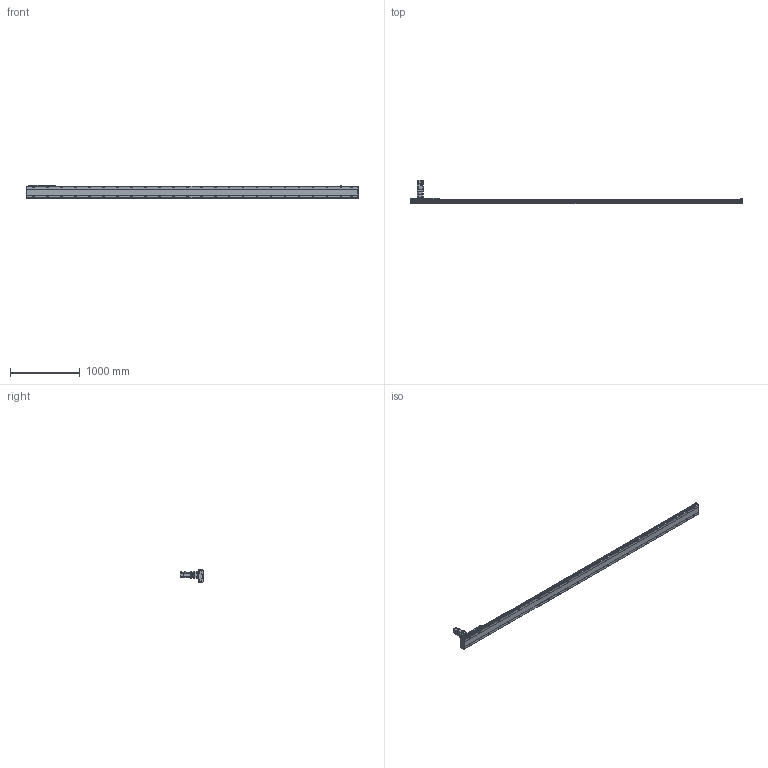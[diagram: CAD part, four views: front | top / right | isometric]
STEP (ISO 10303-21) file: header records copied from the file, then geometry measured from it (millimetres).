
FILE_DESCRIPTION(/* description */ ('STEP AP203'),/* implementation_level */ '2;1');
FILE_NAME(/* name */ 'SHS17A-L13-S4300-BC-T75-C1-N(0)',/* time_stamp */ '2023-03-27T08:59:05+02:00',/* author */ ('License CC BY-ND 4.0'),/* organization */ ('CADENAS'),/* preprocessor_version */ 'ST-DEVELOPER v19.3',/* originating_system */ 'PARTsolutions',/* authorisation */ ' ');
FILE_SCHEMA (('CONFIG_CONTROL_DESIGN'));
Length unit declared in the file: millimetre
Products named in the file (7): SHS17A-L13-S4300-BC-T75-C1-N(0); PSC140-sensor; SHS17A-S4300(0)_body2; T75-p1; SHS17A-S4300_body3; SHS17A-S4300-C1(0)_slider; SHS17A-S4300-C1(0)_body
Assembly tree (13 placements, depth 2):
  SHS17A-L13-S4300-BC-T75-C1-N(0)
    PSC140-sensor  x3
    SHS17A-S4300(0)_body2  x6
    T75-p1
    SHS17A-S4300_body3
    SHS17A-S4300-C1(0)_slider
    SHS17A-S4300-C1(0)_body
Bounding box: 4754 x 333.8 x 193.4 mm (x, y, z)
Volume: 32214532.7 mm3; surface area: 3683865 mm2
Topology: 13 solids, 13 shells, 2424 faces, 6191 edges, 4030 vertices
Faces by surface type: plane 1481, cylinder 838, cone 102, torus 3
Full cylindrical faces by diameter (mm): 2.8 x3, 4.134 x24, 4.5 x2, 4.6 x3, 4.917 x15, 5.5 x48, 6 x7, 6.5 x24, 6.647 x56, 6.8 x9, 8 x3, 8.5 x48, 10 x28, 11 x4, 14 x48, 22 x1, 24 x1, 24.2 x1, 28 x1, 28.2 x1, 28.8 x1, 29.8 x1, 48.542 x1, 68 x1, 70 x1, 78 x1, 80 x2
Entity records: 49668 total; most frequent: CARTESIAN_POINT 10008, DIRECTION 8023, ORIENTED_EDGE 7788, EDGE_CURVE 3894, AXIS2_PLACEMENT_3D 2874, VERTEX_POINT 2743, EDGE_LOOP 2331, FACE_BOUND 2331
